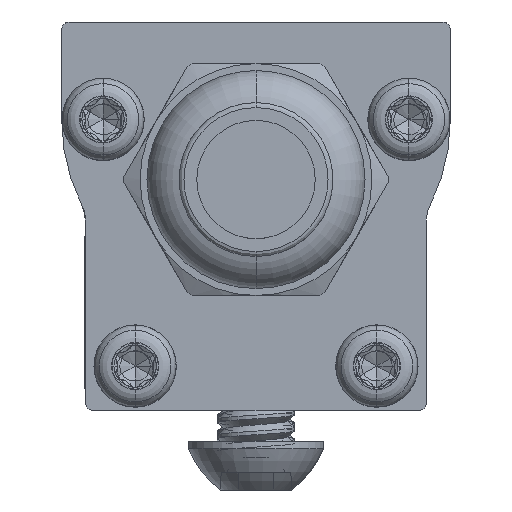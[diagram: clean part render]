
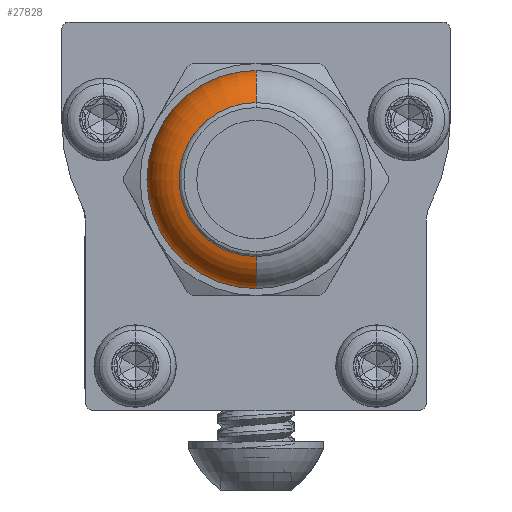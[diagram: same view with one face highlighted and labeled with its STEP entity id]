
A CAD part, left-side view. The second image highlights one B-rep face of the part: STEP entity #27828.
In plain terms, the highlighted toroidal (fillet/blend) face has major radius 3.518 mm and minor radius 2.095 mm.
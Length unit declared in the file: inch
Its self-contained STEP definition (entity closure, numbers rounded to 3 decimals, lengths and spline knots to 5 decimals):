
#694 = CARTESIAN_POINT ( 'NONE',  ( -0.395, 0., 0.156 ) ) ;
#1822 = DIRECTION ( 'NONE',  ( 0., 1., 0. ) ) ;
#2775 = DIRECTION ( 'NONE',  ( 1., 0., 0. ) ) ;
#3820 = VERTEX_POINT ( 'NONE', #9151 ) ;
#4031 = AXIS2_PLACEMENT_3D ( 'NONE', #17020, #2775, #21830 ) ;
#4364 = VERTEX_POINT ( 'NONE', #23752 ) ;
#5574 = CARTESIAN_POINT ( 'NONE',  ( -0.31437, 0., 0. ) ) ;
#5673 = DIRECTION ( 'NONE',  ( -1., 0., 0. ) ) ;
#6283 = CIRCLE ( 'NONE', #4031, 0.22102 ) ;
#7024 = ORIENTED_EDGE ( 'NONE', *, *, #11639, .T. ) ;
#7588 = DIRECTION ( 'NONE',  ( -1., 0., 0. ) ) ;
#8171 = AXIS2_PLACEMENT_3D ( 'NONE', #5574, #5673, #15241 ) ;
#8840 = DIRECTION ( 'NONE',  ( 0., -1., 0. ) ) ;
#9151 = CARTESIAN_POINT ( 'NONE',  ( -0.31437, 0., 0.22102 ) ) ;
#10103 = DIRECTION ( 'NONE',  ( 0., 0., 1. ) ) ;
#11488 = DIRECTION ( 'NONE',  ( 0., 0., 1. ) ) ;
#11639 = EDGE_CURVE ( 'NONE', #24642, #4364, #11936, .T. ) ;
#11936 = CIRCLE ( 'NONE', #19832, 0.0825 ) ;
#13773 = TOROIDAL_SURFACE ( 'NONE', #8171, 0.13852, 0.0825 ) ;
#15241 = DIRECTION ( 'NONE',  ( 0., 0., 1. ) ) ;
#15453 = AXIS2_PLACEMENT_3D ( 'NONE', #24577, #7588, #10103 ) ;
#15695 = CARTESIAN_POINT ( 'NONE',  ( -0.31437, 0., 0.13852 ) ) ;
#16066 = CARTESIAN_POINT ( 'NONE',  ( -0.31437, 0., -0.13852 ) ) ;
#17020 = CARTESIAN_POINT ( 'NONE',  ( -0.31437, 0., 0. ) ) ;
#17765 = VERTEX_POINT ( 'NONE', #694 ) ;
#18092 = CIRCLE ( 'NONE', #24962, 0.0825 ) ;
#19234 = EDGE_CURVE ( 'NONE', #3820, #17765, #18092, .T. ) ;
#19832 = AXIS2_PLACEMENT_3D ( 'NONE', #16066, #1822, #11488 ) ;
#19898 = ORIENTED_EDGE ( 'NONE', *, *, #24730, .F. ) ;
#20901 = FACE_OUTER_BOUND ( 'NONE', #24796, .T. ) ;
#21585 = CARTESIAN_POINT ( 'NONE',  ( -0.31437, 0., -0.22102 ) ) ;
#21830 = DIRECTION ( 'NONE',  ( 0., 0., 1. ) ) ;
#23752 = CARTESIAN_POINT ( 'NONE',  ( -0.395, 0., -0.156 ) ) ;
#24577 = CARTESIAN_POINT ( 'NONE',  ( -0.395, 0., 0. ) ) ;
#24642 = VERTEX_POINT ( 'NONE', #21585 ) ;
#24730 = EDGE_CURVE ( 'NONE', #17765, #4364, #30876, .T. ) ;
#24796 = EDGE_LOOP ( 'NONE', ( #29980, #7024, #19898, #25231 ) ) ;
#24962 = AXIS2_PLACEMENT_3D ( 'NONE', #15695, #8840, #25498 ) ;
#25231 = ORIENTED_EDGE ( 'NONE', *, *, #19234, .F. ) ;
#25498 = DIRECTION ( 'NONE',  ( 0., 0., -1. ) ) ;
#27828 = ADVANCED_FACE ( 'NONE', ( #20901 ), #13773, .T. ) ;
#29064 = EDGE_CURVE ( 'NONE', #24642, #3820, #6283, .T. ) ;
#29980 = ORIENTED_EDGE ( 'NONE', *, *, #29064, .F. ) ;
#30876 = CIRCLE ( 'NONE', #15453, 0.156 ) ;
